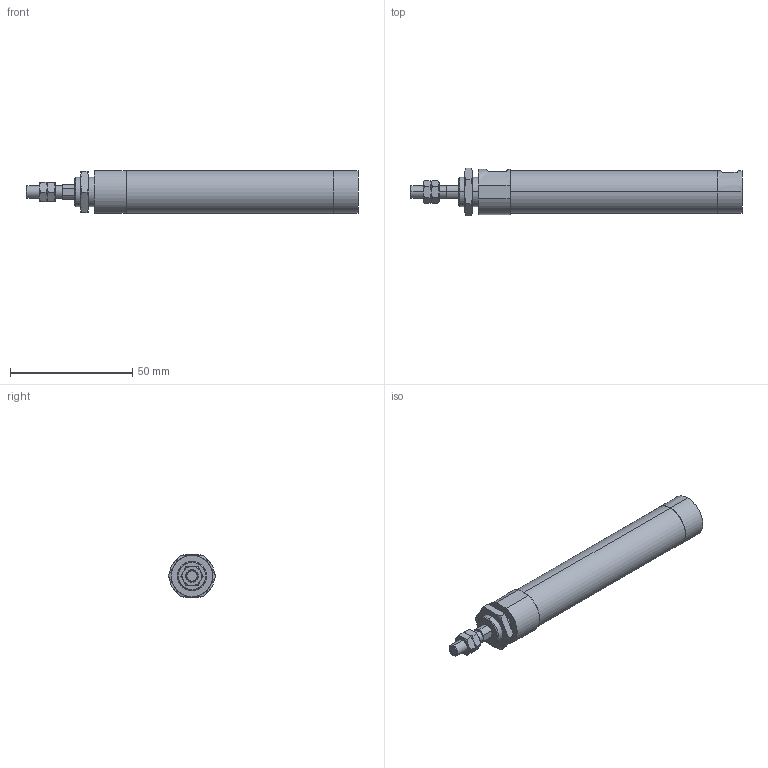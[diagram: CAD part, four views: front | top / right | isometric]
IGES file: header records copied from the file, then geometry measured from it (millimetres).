
Start section: SolidWorks IGES file using analytic representation for surfaces
Global section: file name: C:\Users\Toshiba\Desktop\ZGU2-16-60-N.IGS; native system: SolidWorks 2014; preprocessor: SolidWorks 2014; author: Toshiba; date: 160331.090202; units: millimetre
Bounding box: 136 x 19.63 x 17.6 mm (x, y, z)
Surface area: 8326 mm2 (no closed solid volume)
Topology: 0 solids, 0 shells, 108 faces, 1684 edges, 1680 vertices
Faces by surface type: bspline 77, revolution 31
